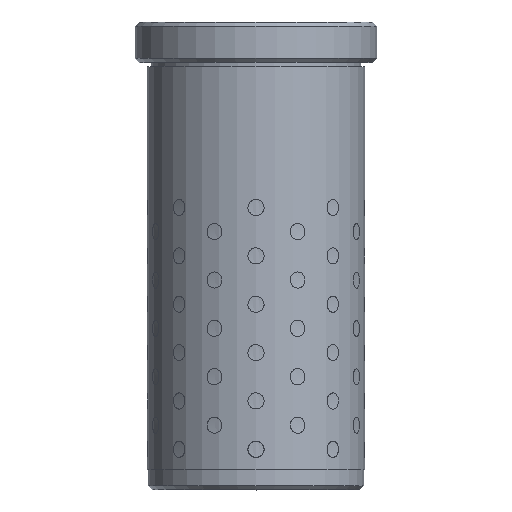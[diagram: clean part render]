
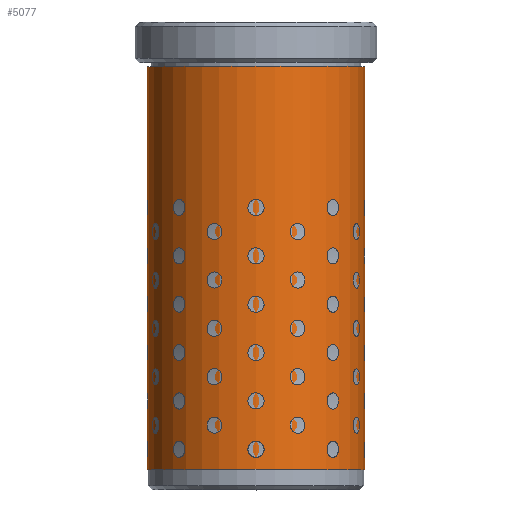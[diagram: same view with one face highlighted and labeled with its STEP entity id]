
A CAD part, top view. The second image highlights one B-rep face of the part: STEP entity #5077.
In plain terms, the highlighted cylindrical face has radius 27 mm (diameter 54 mm), a full revolution.
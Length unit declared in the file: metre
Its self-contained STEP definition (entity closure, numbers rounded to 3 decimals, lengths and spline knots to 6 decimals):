
#5077 = ADVANCED_FACE( '', ( #5422, #5423 ), #5424, .T. );
#5422 = FACE_OUTER_BOUND( '', #6195, .T. );
#5423 = FACE_OUTER_BOUND( '', #6196, .T. );
#5424 = CYLINDRICAL_SURFACE( '', #6197, 0.027 );
#6195 = EDGE_LOOP( '', ( #6984 ) );
#6196 = EDGE_LOOP( '', ( #6985 ) );
#6197 = AXIS2_PLACEMENT_3D( '', #6986, #6987, #6988 );
#6984 = ORIENTED_EDGE( '', *, *, #8380, .T. );
#6985 = ORIENTED_EDGE( '', *, *, #8379, .F. );
#6986 = CARTESIAN_POINT( '', ( 0., 0., 0. ) );
#6987 = DIRECTION( '', ( 0., 1., 0. ) );
#6988 = DIRECTION( '', ( 0., 0., -1. ) );
#8379 = EDGE_CURVE( '', #8610, #8610, #8611, .T. );
#8380 = EDGE_CURVE( '', #8612, #8612, #8613, .T. );
#8610 = VERTEX_POINT( '', #9056 );
#8611 = CIRCLE( '', #9057, 0.027 );
#8612 = VERTEX_POINT( '', #9058 );
#8613 = CIRCLE( '', #9059, 0.027 );
#9056 = CARTESIAN_POINT( '', ( 0., 0.005, -0.027 ) );
#9057 = AXIS2_PLACEMENT_3D( '', #20742, #20743, #20744 );
#9058 = CARTESIAN_POINT( '', ( 0., 0.105, -0.027 ) );
#9059 = AXIS2_PLACEMENT_3D( '', #20745, #20746, #20747 );
#20742 = CARTESIAN_POINT( '', ( 0., 0.005, 0. ) );
#20743 = DIRECTION( '', ( 0., -1., 0. ) );
#20744 = DIRECTION( '', ( 0., 0., -1. ) );
#20745 = CARTESIAN_POINT( '', ( 0., 0.105, 0. ) );
#20746 = DIRECTION( '', ( 0., -1., 0. ) );
#20747 = DIRECTION( '', ( 0., 0., -1. ) );
